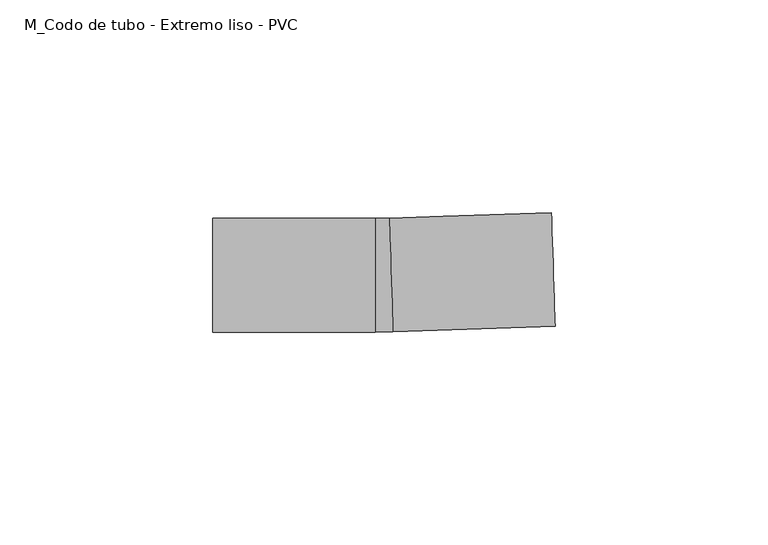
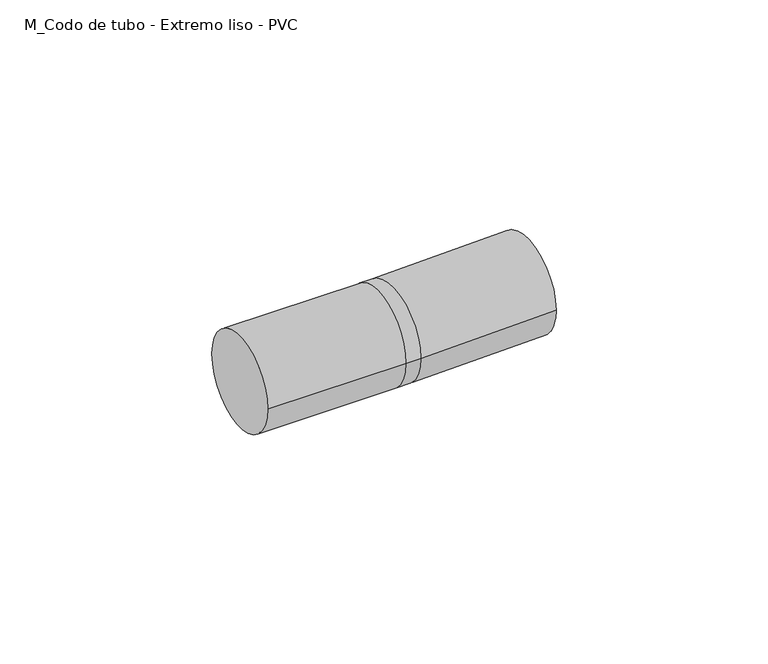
"""IFC4 building model written with IfcOpenShell, lengths in millimetres: cable carrier fitting geometry, M_Codo de tubo - Extremo liso - PVC : CODO ILUMINACION."""

from ifc_helpers import new_model, si_unit, point, frame, origin, place, context, project, spatial, circle_curve, ellipse_curve, trimmed, source, transform, mapped, element, save
from ifc_brep_helpers import plane_surface, cylinder_surface, revolved_surface, advanced_brep


def m_codo_de_tubo_extremo_liso_pvc_bfb08ca4(model_context):
    return source(origin(), model_context, "Body", "AdvancedBrep", [
        advanced_brep(
        [(-39.9763032, -13.335, 0.0), (-39.9763032, 13.335, 0.0), (-1.8763032, -13.335, 0.0), (-1.8763032, 13.335, 0.0), (1.4376061, 13.3893998, 0.0), (2.3129784, -13.2662304, 0.0), (40.3924502, -12.0156986, 0.0), (39.5170779, 14.6399316, 0.0)],
        [
            (0, 1, circle_curve(frame((-39.9763032, 0.0, 0.0), z_axis=(-1.0, 0.0, 0.0), x_axis=(0.0, 1.0, 0.0)), 13.335)),
            (1, 0, circle_curve(frame((-39.9763032, 0.0, 0.0), z_axis=(-1.0, 0.0, 0.0), x_axis=(0.0, 1.0, 0.0)), 13.335)),
            (0, 2),
            (2, 3, circle_curve(frame((-1.8763032, 0.0, 0.0), z_axis=(-1.0, 0.0, 0.0), x_axis=(0.0, 1.0, 0.0)), 13.335)),
            (3, 1),
            (3, 2, circle_curve(frame((-1.8763032, 0.0, 0.0), z_axis=(-1.0, 0.0, 0.0), x_axis=(0.0, 1.0, 0.0)), 13.335)),
            (4, 3, circle_curve(frame((-1.8763032, 114.3, 0.0), z_axis=(0.0, 0.0, -1.0), x_axis=(0.0, -1.0, 0.0)), 100.965)),
            (2, 5, circle_curve(frame((-1.8763032, 114.3, 0.0), z_axis=(0.0, 0.0, 1.0), x_axis=(0.0, -1.0, 0.0)), 127.635)),
            (5, 4, circle_curve(frame((1.8752923, 0.0615847, 0.0), z_axis=(-0.999461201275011, -0.03282235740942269, 0.0), x_axis=(-0.03282235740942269, 0.999461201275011, 0.0)), 13.335)),
            (4, 5, circle_curve(frame((1.8752923, 0.0615847, 0.0), z_axis=(-0.999461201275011, -0.032822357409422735, 0.0), x_axis=(-0.032822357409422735, 0.999461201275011, 0.0)), 13.335)),
            (6, 7, circle_curve(frame((39.954764, 1.3121165, 0.0), z_axis=(0.999461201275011, 0.03282235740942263, 0.0), x_axis=(-0.03282235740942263, 0.999461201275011, 0.0)), 13.335)),
            (7, 6, circle_curve(frame((39.954764, 1.3121165, 0.0), z_axis=(0.999461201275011, 0.03282235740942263, 0.0), x_axis=(-0.03282235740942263, 0.999461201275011, 0.0)), 13.335)),
            (5, 6),
            (7, 4),
        ],
        [
            plane_surface(frame((-39.9763032, 0.0, 0.0), z_axis=(-1.0, 0.0, 0.0), x_axis=(0.0, 0.0, 1.0))),
            cylinder_surface(frame((-39.9763032, 0.0, 0.0), z_axis=(-1.0, 0.0, 0.0), x_axis=(0.0, 1.0, 0.0)), 13.335),
            revolved_surface(trimmed(ellipse_curve(frame((-1.8763032, 0.0, 0.0), z_axis=(-1.0, 0.0, 0.0), x_axis=(0.0, 1.0, 0.0)), 13.335, 13.335), [point((-1.8763032, -13.335, 0.0))], [point((-1.8763032, 13.335, 0.0))], True, "CARTESIAN"), (-1.8763032, 114.3, 0.0), (0.0, 0.0, 1.0)),
            revolved_surface(trimmed(ellipse_curve(frame((-1.8763032, 0.0, 0.0), z_axis=(-1.0, 0.0, 0.0), x_axis=(0.0, 1.0, 0.0)), 13.335, 13.335), [point((-1.8763032, 13.335, 0.0))], [point((-1.8763032, -13.335, 0.0))], True, "CARTESIAN"), (-1.8763032, 114.3, 0.0), (0.0, 0.0, 1.0)),
            plane_surface(frame((39.954764, 1.3121165, 0.0), z_axis=(0.999461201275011, 0.03282235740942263, 0.0), x_axis=(0.0, 0.0, 1.0))),
            cylinder_surface(frame((1.8752923, 0.0615847, 0.0), z_axis=(-0.999461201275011, -0.03282235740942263, 0.0), x_axis=(-0.03282235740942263, 0.999461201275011, 0.0)), 13.335),
        ],
        [
            (0, [[1, 2]]),
            (1, [[-1, 3, 4, 5]]),
            (1, [[-2, -5, 6, -3]]),
            (2, [[7, -4, 8, 9]]),
            (3, [[-8, -6, -7, 10]]),
            (4, [[11, 12]]),
            (5, [[-9, 13, -12, 14]]),
            (5, [[-10, -14, -11, -13]]),
        ],
    ),
    ])


if __name__ == "__main__":
    model = new_model("IFC4")
    model_context = context("Model", 3, world=origin())
    ifc_project = project(units=[si_unit("LENGTHUNIT", "METRE", prefix="MILLI")], contexts=[model_context])
    site = spatial("IfcSite", under=ifc_project)
    building = spatial("IfcBuilding", under=site)
    placement = place(None, origin())
    m_codo_de_tubo_extremo_liso_pvc_shape = m_codo_de_tubo_extremo_liso_pvc_bfb08ca4(model_context)
    element("IfcCableCarrierFitting", 1, ObjectType="M_Codo de tubo - Extremo liso - PVC : CODO ILUMINACION", at=placement, inside=building, context=model_context, shape_type="MappedRepresentation", body=[
        mapped(m_codo_de_tubo_extremo_liso_pvc_shape, transform((0.0, 0.0, 0.0), x_axis=(1.0, 0.0, 0.0), y_axis=(0.0, 1.0, 0.0), z_axis=(0.0, 0.0, 1.0))),
    ])
    save(model, "model.ifc")
